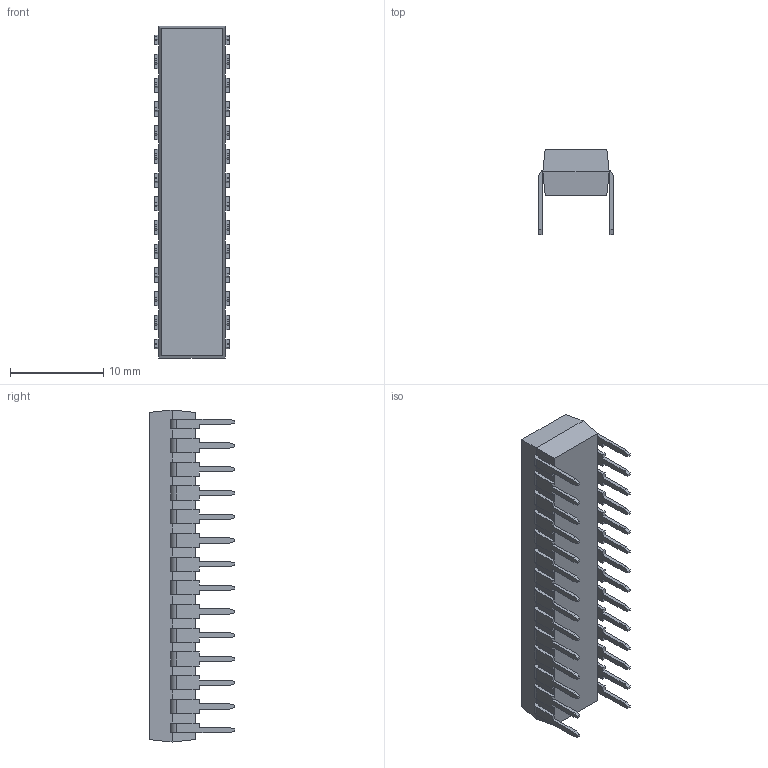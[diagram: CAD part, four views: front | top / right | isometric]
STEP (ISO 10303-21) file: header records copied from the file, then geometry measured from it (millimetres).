
FILE_DESCRIPTION (( 'STEP AP214' ), '1' );
FILE_NAME ('DIP28 (MS-001.BF).STEP', '2012-10-16T13:01:39', ( 'Tester2' ), ( '' ), 'SwSTEP 2.0', 'SolidWorks 2012', '' );
FILE_SCHEMA (( 'AUTOMOTIVE_DESIGN' ));
Length unit declared in the file: millimetre
Products named in the file (1): DIP28 (MS-001.BF)
Bounding box: 7.98 x 9.14 x 35.56 mm (x, y, z)
Volume: 1259.6 mm3; surface area: 1367.8 mm2
Topology: 1 solids, 1 shells, 371 faces, 1103 edges, 734 vertices
Faces by surface type: plane 313, cylinder 58
Entity records: 12480 total; most frequent: CARTESIAN_POINT 2209, ORIENTED_EDGE 2206, DIRECTION 1963, EDGE_CURVE 1103, LINE 987, VECTOR 987, VERTEX_POINT 734, AXIS2_PLACEMENT_3D 488
